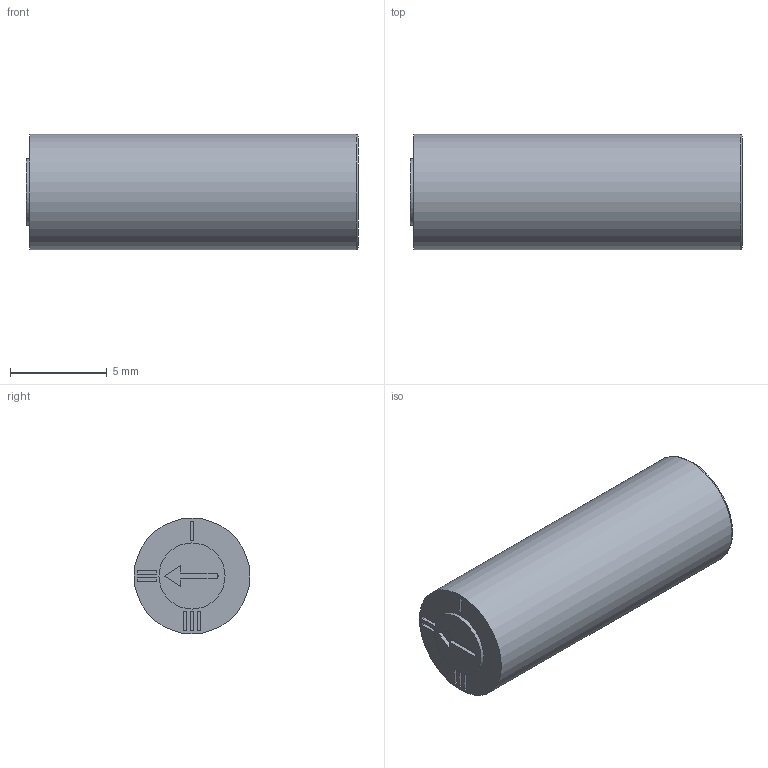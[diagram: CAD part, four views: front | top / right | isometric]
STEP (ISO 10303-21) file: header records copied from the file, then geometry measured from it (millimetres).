
FILE_DESCRIPTION( ( 'STEP AP203' ), ' ' );
FILE_NAME( 'p:/temp/worker_7/4092_5060/app_90_12017012415110423405288260eae72_000000_00_00_000000/format_0/OSN06(0.2).stp', '2017-01-24T14:11:04', ( '' ), ( '' ), ' ', 'PARTsolutions', ' ' );
FILE_SCHEMA( ( 'CONFIG_CONTROL_DESIGN' ) );
Length unit declared in the file: millimetre
Products named in the file (3): OSN06(0.2); _OSN06(0.2)1; _OSN06(0.2)2
Assembly tree (2 placements, depth 2):
  OSN06(0.2)
    _OSN06(0.2)1
    _OSN06(0.2)2
Bounding box: 17.2 x 6 x 6 mm (x, y, z)
Volume: 426.2 mm3; surface area: 598.2 mm2
Topology: 2 solids, 2 shells, 55 faces, 119 edges, 78 vertices
Faces by surface type: plane 44, cylinder 7, cone 3, torus 1
Full cylindrical faces by diameter (mm): 1.383 x1, 1.6 x1, 2.459 x1, 3.42 x2, 6 x1
Entity records: 1541 total; most frequent: CARTESIAN_POINT 245, DIRECTION 243, ORIENTED_EDGE 218, EDGE_CURVE 109, LINE 91, VECTOR 91, VERTEX_POINT 78, EDGE_LOOP 77
